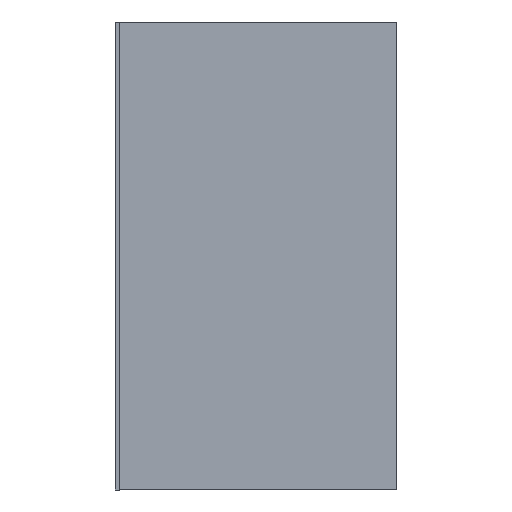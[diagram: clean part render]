
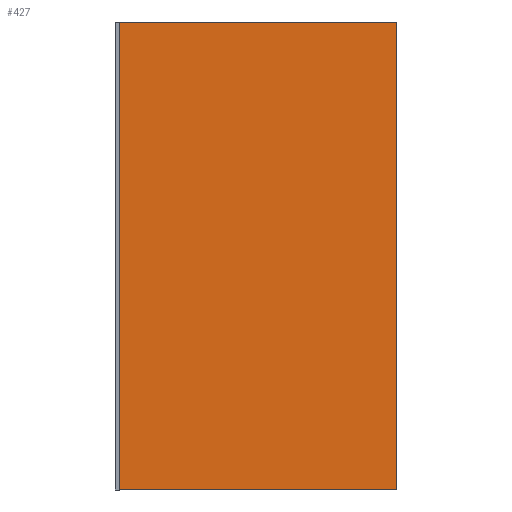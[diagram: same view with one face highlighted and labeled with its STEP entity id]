
A CAD part, front view. The second image highlights one B-rep face of the part: STEP entity #427.
In plain terms, the highlighted planar face has unit normal (0, -1, 0) as drawn and (0, 1, 0) by its records, which use the part's own axes.
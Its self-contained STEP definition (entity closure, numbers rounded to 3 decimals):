
#52=FACE_OUTER_BOUND($,#75,.T.);
#75=EDGE_LOOP($,(#300,#301,#302,#303));
#111=LINE($,#628,#159);
#112=LINE($,#631,#160);
#113=LINE($,#633,#161);
#114=LINE($,#634,#162);
#159=VECTOR($,#502,1500.);
#160=VECTOR($,#505,900.);
#161=VECTOR($,#506,900.);
#162=VECTOR($,#507,1500.);
#204=VERTEX_POINT($,#621);
#207=VERTEX_POINT($,#626);
#208=VERTEX_POINT($,#630);
#209=VERTEX_POINT($,#632);
#245=EDGE_CURVE($,#204,#207,#111,.T.);
#246=EDGE_CURVE($,#208,#204,#112,.T.);
#247=EDGE_CURVE($,#209,#207,#113,.T.);
#248=EDGE_CURVE($,#208,#209,#114,.T.);
#300=ORIENTED_EDGE($,*,*,#246,.T.);
#301=ORIENTED_EDGE($,*,*,#245,.T.);
#302=ORIENTED_EDGE($,*,*,#247,.F.);
#303=ORIENTED_EDGE($,*,*,#248,.F.);
#405=PLANE($,#459);
#427=ADVANCED_FACE($,(#52),#405,.T.);
#459=AXIS2_PLACEMENT_3D($,#629,#503,#504);
#502=DIRECTION($,(0.,0.,1.));
#503=DIRECTION('center_axis',(0.,1.,0.));
#504=DIRECTION('ref_axis',(-1.,0.,0.));
#505=DIRECTION($,(-1.,0.,0.));
#506=DIRECTION($,(-1.,0.,0.));
#507=DIRECTION($,(0.,0.,1.));
#621=CARTESIAN_POINT('',(0.,6.,0.));
#626=CARTESIAN_POINT('',(0.,6.,1500.));
#628=CARTESIAN_POINT($,(0.,6.,0.));
#629=CARTESIAN_POINT('Origin',(900.,6.,0.));
#630=CARTESIAN_POINT('',(900.,6.,0.));
#631=CARTESIAN_POINT($,(900.,6.,0.));
#632=CARTESIAN_POINT('',(900.,6.,1500.));
#633=CARTESIAN_POINT($,(900.,6.,1500.));
#634=CARTESIAN_POINT($,(900.,6.,0.));
